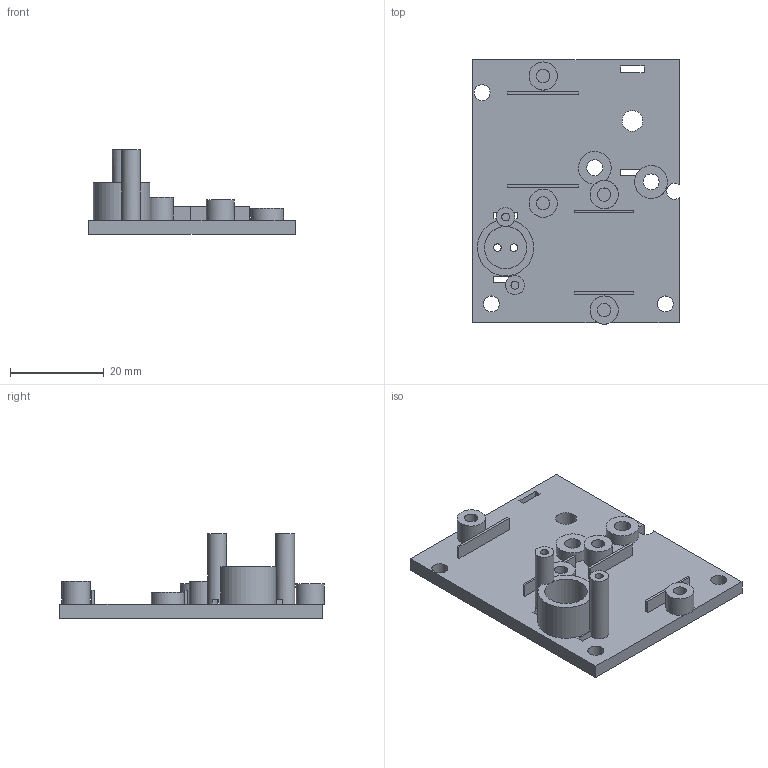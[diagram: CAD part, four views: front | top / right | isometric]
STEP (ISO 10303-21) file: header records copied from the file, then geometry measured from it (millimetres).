
FILE_DESCRIPTION(('Open CASCADE Model'),'2;1');
FILE_NAME('Open CASCADE Shape Model','2026-10-05T13:24:20',('Author'),( 'Open CASCADE'),'Open CASCADE STEP processor 7.8','Open CASCADE 7.8' ,'Unknown');
FILE_SCHEMA(('AUTOMOTIVE_DESIGN { 1 0 10303 214 1 1 1 1 }'));
Length unit declared in the file: millimetre
Products named in the file (1): Open CASCADE STEP translator 7.8 22
Bounding box: 44 x 56.3 x 18 mm (x, y, z)
Volume: 8264.7 mm3; surface area: 7811.7 mm2
Topology: 1 solids, 1 shells, 103 faces, 262 edges, 173 vertices
Faces by surface type: plane 78, cylinder 25
Full cylindrical faces by diameter (mm): 1.6 x2, 1.7 x2, 2.8 x4, 3.4 x5, 4 x2, 4.4 x1, 6 x4, 7 x1, 9 x1
Entity records: 6615 total; most frequent: CARTESIAN_POINT 1398, DIRECTION 935, LINE 571, VECTOR 571, ORIENTED_EDGE 524, PCURVE 524, DEFINITIONAL_REPRESENTATION 524, EDGE_CURVE 262
